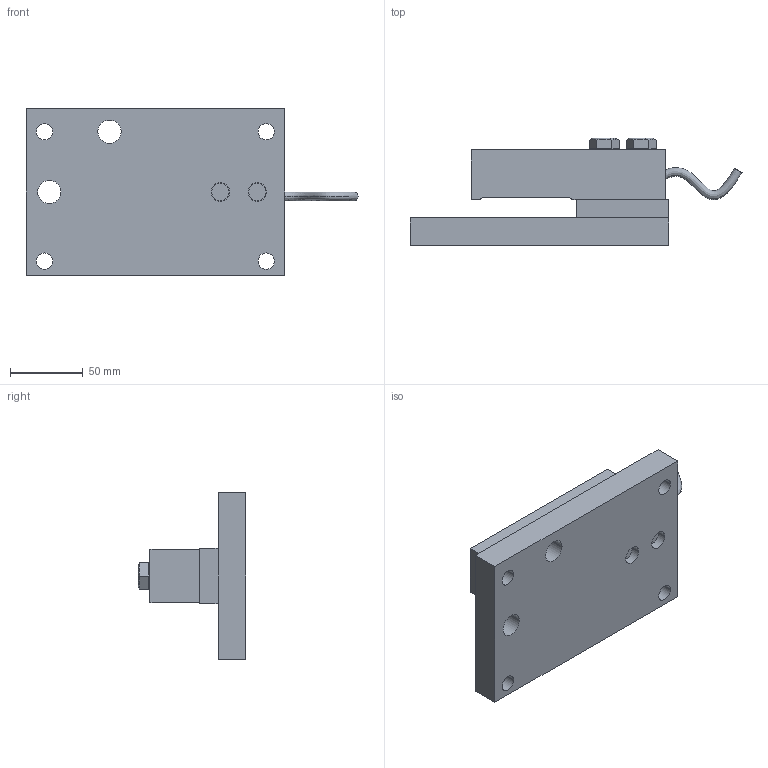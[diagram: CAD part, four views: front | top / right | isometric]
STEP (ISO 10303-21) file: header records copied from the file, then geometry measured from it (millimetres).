
FILE_DESCRIPTION((''),'2;1');
FILE_NAME('72208666B_ASM','2012-02-02T',('ji-11'),(''),'PRO/ENGINEER BY PARAMETRIC TECHNOLOGY CORPORATION, 2006010','PRO/ENGINEER BY PARAMETRIC TECHNOLOGY CORPORATION, 2006010','');
FILE_SCHEMA(('CONFIG_CONTROL_DESIGN'));
Length unit declared in the file: millimetre
Products named in the file (1): 72208666B_ASM
Bounding box: 228.21 x 74.04 x 114.3 mm (x, y, z)
Volume: 566664.9 mm3; surface area: 87169.4 mm2
Topology: 1 solids, 1 shells, 79 faces, 190 edges, 124 vertices
Faces by surface type: plane 41, cylinder 30, cone 6, bspline 2
Entity records: 3209 total; most frequent: CARTESIAN_POINT 1276, DIRECTION 392, ORIENTED_EDGE 380, EDGE_CURVE 190, AXIS2_PLACEMENT_3D 143, VERTEX_POINT 124, VECTOR 106, LINE 106
